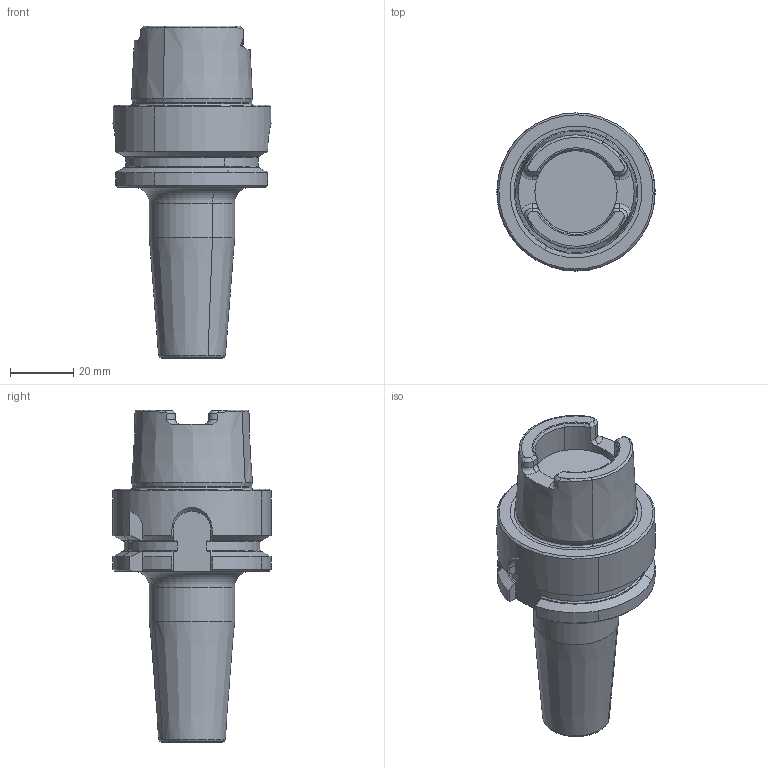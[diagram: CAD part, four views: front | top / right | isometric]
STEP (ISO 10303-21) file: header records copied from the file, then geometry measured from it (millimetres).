
FILE_DESCRIPTION(('CATIA V5 STEP'),'2;1');
FILE_NAME('I:\isr\design\admin8\users\edward_s\4590447_L.stp','2012-06-07T01:57:38+00:00',('none'),('none'),'CATIA Version 5 Release 21 SP 3 (IN-10)','CATIA V5 STEP AP214','none');
FILE_SCHEMA(('AUTOMOTIVE_DESIGN { 1 0 10303 214 1 1 1 1 }'));
Length unit declared in the file: millimetre
Products named in the file (1): 60974222_0 Holder-Tool HSK A 50 SRKIN 8X80
Bounding box: 50 x 50 x 105 mm (x, y, z)
Volume: 94975.4 mm3; surface area: 15732.4 mm2
Topology: 1 solids, 1 shells, 148 faces, 383 edges, 240 vertices
Faces by surface type: plane 51, cone 37, cylinder 32, torus 28
Entity records: 4598 total; most frequent: CARTESIAN_POINT 1408, ORIENTED_EDGE 766, DIRECTION 470, EDGE_CURVE 383, AXIS2_PLACEMENT_3D 244, VERTEX_POINT 240, CIRCLE 157, EDGE_LOOP 151
